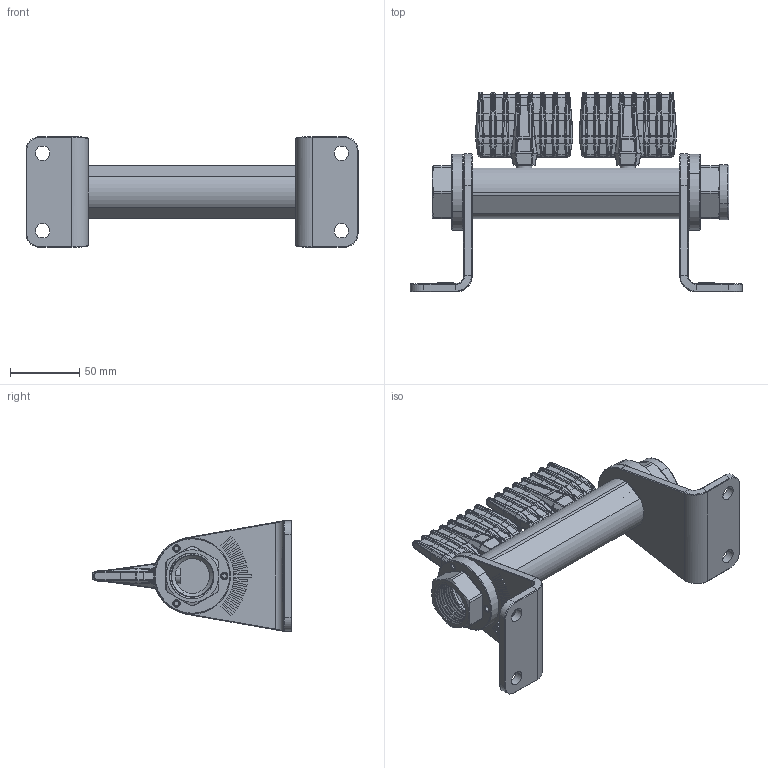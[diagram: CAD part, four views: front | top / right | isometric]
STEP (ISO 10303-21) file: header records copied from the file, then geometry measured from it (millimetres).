
FILE_DESCRIPTION (( 'STEP AP214' ), '1' );
FILE_NAME ('372W-S.STEP', '2024-10-15T13:17:55', ( '' ), ( '' ), 'SwSTEP 2.0', 'SolidWorks 2021', '' );
FILE_SCHEMA (( 'AUTOMOTIVE_DESIGN' ));
Length unit declared in the file: millimetre
Products named in the file (8): 90000000572_Skruv_Insex_M5x8_DIN914_A2; Silvent M1E; 70060_Profil 372 W-S; 9003W-S; Plugg 1 SS; Silvent MB1; 372W-S; Nippel EA1
Assembly tree (11 placements, depth 3):
  372W-S
    70060_Profil 372 W-S
    9003W-S  x2
    Silvent M1E  x2
      Silvent MB1
      Nippel EA1
      90000000572_Skruv_Insex_M5x8_DIN914_A2
    Plugg 1 SS
Bounding box: 240 x 144.5 x 80 mm (x, y, z)
Volume: 282764.1 mm3; surface area: 126627.3 mm2
Topology: 14 solids, 14 shells, 3448 faces, 8025 edges, 4608 vertices
Faces by surface type: cylinder 1280, bspline 1048, plane 950, cone 82, sphere 64, torus 24
Entity records: 78736 total; most frequent: CARTESIAN_POINT 30716, ORIENTED_EDGE 7884, DIRECTION 6186, EDGE_CURVE 3942, VERTEX_POINT 2285, AXIS2_PLACEMENT_3D 2267, EDGE_LOOP 1763, ADVANCED_FACE 1706
